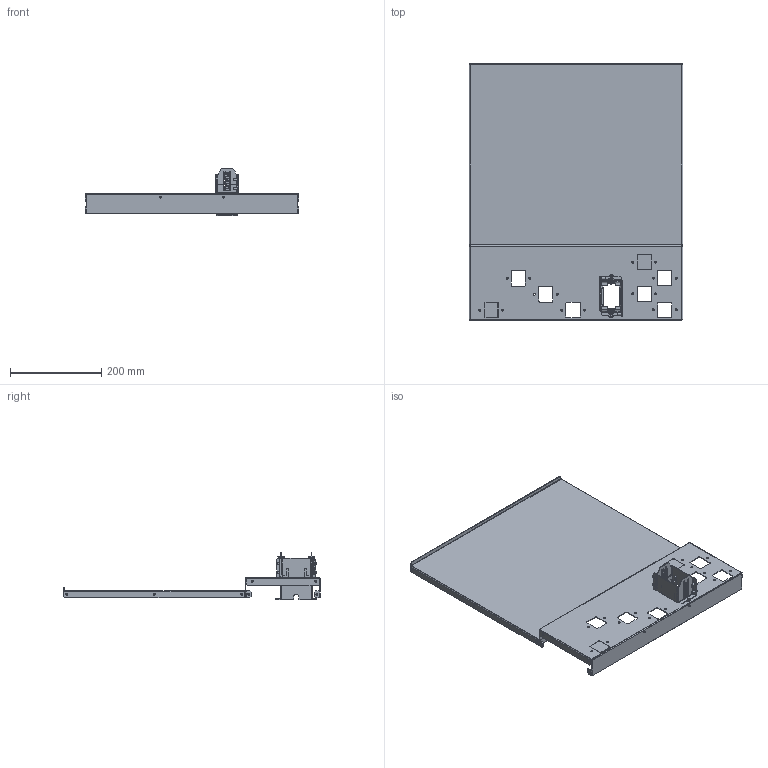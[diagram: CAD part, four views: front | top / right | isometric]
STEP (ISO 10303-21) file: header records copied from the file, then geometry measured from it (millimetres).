
FILE_DESCRIPTION(('CAx-IF Rec.Pracs.---Model Styling and Organization---1.2---2011-12-15','CAx-IF Rec.Pracs.---Geometric and Assembly Validation Properties---4.1---2014-06-16','CAx-IF Rec.Pracs.---PMI Polyline Presentation---2.0---2013-05-24'),'2;1');
FILE_NAME('R5M2W12M1BR22.stp','2021-05-05T12:42:37+03:00',(''),(''),'STEP Interface 4.4 by CT CoreTechnologie','3D_Evolution4.4 by CT CoreTechnologie','');
FILE_SCHEMA(('AUTOMOTIVE_DESIGN { 1 0 10303 214 1 1 1 1 }'));
Length unit declared in the file: millimetre
Products named in the file (9): R5M2W12M1BR22; RB.1506.00.00.0_-03; RB.1507.00.00.0_-05; RB.1567.00.00.0_-00; RB.1765.00.00.0 ÑÁ; RB.1570.00.00.0; RB.1569.00.00.1_-00; RB.1571.00.00.0_In prestressed condition - 40 mm; M5x8-DIN7500C_stright
Assembly tree (14 placements, depth 3):
  R5M2W12M1BR22
    RB.1506.00.00.0_-03
    RB.1507.00.00.0_-05
    RB.1567.00.00.0_-00
    RB.1765.00.00.0 ÑÁ
      RB.1570.00.00.0  x2
      RB.1569.00.00.1_-00  x2
      RB.1571.00.00.0_In prestressed condition - 40 mm  x2
      M5x8-DIN7500C_stright  x4
Bounding box: 470 x 564.2 x 103.8 mm (x, y, z)
Surface area: 707676.6 mm2 (no closed solid volume)
Topology: 0 solids, 22 shells, 762 faces, 2021 edges, 1303 vertices
Faces by surface type: plane 492, cylinder 240, bspline 30
Entity records: 20035 total; most frequent: CARTESIAN_POINT 4733, DIRECTION 3065, ORIENTED_EDGE 3062, EDGE_CURVE 1531, VECTOR 1111, LINE 1111, VERTEX_POINT 985, AXIS2_PLACEMENT_3D 977
